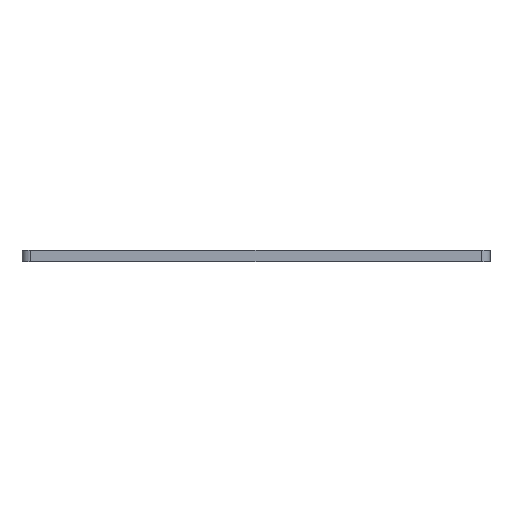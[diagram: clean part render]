
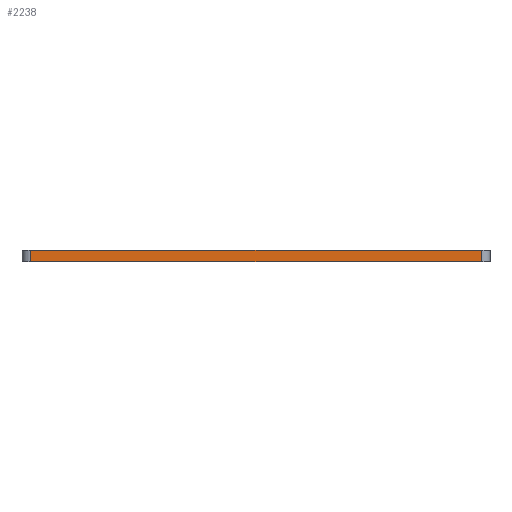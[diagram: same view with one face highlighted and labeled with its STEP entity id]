
A CAD part, front view. The second image highlights one B-rep face of the part: STEP entity #2238.
In plain terms, the highlighted planar face has unit normal (0, -1, 0).
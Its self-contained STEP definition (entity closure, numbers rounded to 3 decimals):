
#44 = CYLINDRICAL_SURFACE('',#45,4.);
#45 = AXIS2_PLACEMENT_3D('',#46,#47,#48);
#46 = CARTESIAN_POINT('',(-101.,-80.,0.));
#47 = DIRECTION('',(0.,0.,-1.));
#48 = DIRECTION('',(-1.,0.,0.));
#72 = PLANE('',#73);
#73 = AXIS2_PLACEMENT_3D('',#74,#75,#76);
#74 = CARTESIAN_POINT('',(0.,0.,5.));
#75 = DIRECTION('',(0.,0.,1.));
#76 = DIRECTION('',(1.,0.,-0.));
#126 = PLANE('',#127);
#127 = AXIS2_PLACEMENT_3D('',#128,#129,#130);
#128 = CARTESIAN_POINT('',(0.,0.,0.));
#129 = DIRECTION('',(0.,0.,1.));
#130 = DIRECTION('',(1.,0.,-0.));
#141 = EDGE_CURVE('',#142,#144,#146,.T.);
#142 = VERTEX_POINT('',#143);
#143 = CARTESIAN_POINT('',(-101.,-84.,0.));
#144 = VERTEX_POINT('',#145);
#145 = CARTESIAN_POINT('',(-101.,-84.,5.));
#146 = SURFACE_CURVE('',#147,(#151,#158),.PCURVE_S1.);
#147 = LINE('',#148,#149);
#148 = CARTESIAN_POINT('',(-101.,-84.,0.));
#149 = VECTOR('',#150,1.);
#150 = DIRECTION('',(0.,0.,1.));
#151 = PCURVE('',#44,#152);
#152 = DEFINITIONAL_REPRESENTATION('',(#153),#157);
#153 = LINE('',#154,#155);
#154 = CARTESIAN_POINT('',(4.712,0.));
#155 = VECTOR('',#156,1.);
#156 = DIRECTION('',(0.,-1.));
#157 = ( GEOMETRIC_REPRESENTATION_CONTEXT(2) 
PARAMETRIC_REPRESENTATION_CONTEXT() REPRESENTATION_CONTEXT('2D SPACE',''
  ) );
#158 = PCURVE('',#159,#164);
#159 = PLANE('',#160);
#160 = AXIS2_PLACEMENT_3D('',#161,#162,#163);
#161 = CARTESIAN_POINT('',(-101.,-84.,0.));
#162 = DIRECTION('',(0.,1.,0.));
#163 = DIRECTION('',(1.,0.,0.));
#164 = DEFINITIONAL_REPRESENTATION('',(#165),#169);
#165 = LINE('',#166,#167);
#166 = CARTESIAN_POINT('',(0.,0.));
#167 = VECTOR('',#168,1.);
#168 = DIRECTION('',(0.,-1.));
#169 = ( GEOMETRIC_REPRESENTATION_CONTEXT(2) 
PARAMETRIC_REPRESENTATION_CONTEXT() REPRESENTATION_CONTEXT('2D SPACE',''
  ) );
#315 = EDGE_CURVE('',#142,#316,#318,.T.);
#316 = VERTEX_POINT('',#317);
#317 = CARTESIAN_POINT('',(101.,-84.,0.));
#318 = SURFACE_CURVE('',#319,(#323,#330),.PCURVE_S1.);
#319 = LINE('',#320,#321);
#320 = CARTESIAN_POINT('',(0.,-84.,0.));
#321 = VECTOR('',#322,1.);
#322 = DIRECTION('',(1.,0.,0.));
#323 = PCURVE('',#126,#324);
#324 = DEFINITIONAL_REPRESENTATION('',(#325),#329);
#325 = LINE('',#326,#327);
#326 = CARTESIAN_POINT('',(0.,-84.));
#327 = VECTOR('',#328,1.);
#328 = DIRECTION('',(1.,0.));
#329 = ( GEOMETRIC_REPRESENTATION_CONTEXT(2) 
PARAMETRIC_REPRESENTATION_CONTEXT() REPRESENTATION_CONTEXT('2D SPACE',''
  ) );
#330 = PCURVE('',#159,#331);
#331 = DEFINITIONAL_REPRESENTATION('',(#332),#336);
#332 = LINE('',#333,#334);
#333 = CARTESIAN_POINT('',(101.,0.));
#334 = VECTOR('',#335,1.);
#335 = DIRECTION('',(1.,0.));
#336 = ( GEOMETRIC_REPRESENTATION_CONTEXT(2) 
PARAMETRIC_REPRESENTATION_CONTEXT() REPRESENTATION_CONTEXT('2D SPACE',''
  ) );
#359 = CYLINDRICAL_SURFACE('',#360,4.);
#360 = AXIS2_PLACEMENT_3D('',#361,#362,#363);
#361 = CARTESIAN_POINT('',(101.,-80.,0.));
#362 = DIRECTION('',(0.,0.,-1.));
#363 = DIRECTION('',(-1.,0.,0.));
#1771 = EDGE_CURVE('',#144,#1772,#1774,.T.);
#1772 = VERTEX_POINT('',#1773);
#1773 = CARTESIAN_POINT('',(101.,-84.,5.));
#1774 = SURFACE_CURVE('',#1775,(#1779,#1786),.PCURVE_S1.);
#1775 = LINE('',#1776,#1777);
#1776 = CARTESIAN_POINT('',(0.,-84.,5.));
#1777 = VECTOR('',#1778,1.);
#1778 = DIRECTION('',(1.,0.,0.));
#1779 = PCURVE('',#72,#1780);
#1780 = DEFINITIONAL_REPRESENTATION('',(#1781),#1785);
#1781 = LINE('',#1782,#1783);
#1782 = CARTESIAN_POINT('',(0.,-84.));
#1783 = VECTOR('',#1784,1.);
#1784 = DIRECTION('',(1.,0.));
#1785 = ( GEOMETRIC_REPRESENTATION_CONTEXT(2) 
PARAMETRIC_REPRESENTATION_CONTEXT() REPRESENTATION_CONTEXT('2D SPACE',''
  ) );
#1786 = PCURVE('',#159,#1787);
#1787 = DEFINITIONAL_REPRESENTATION('',(#1788),#1792);
#1788 = LINE('',#1789,#1790);
#1789 = CARTESIAN_POINT('',(101.,-5.));
#1790 = VECTOR('',#1791,1.);
#1791 = DIRECTION('',(1.,0.));
#1792 = ( GEOMETRIC_REPRESENTATION_CONTEXT(2) 
PARAMETRIC_REPRESENTATION_CONTEXT() REPRESENTATION_CONTEXT('2D SPACE',''
  ) );
#2238 = ADVANCED_FACE('',(#2239),#159,.F.);
#2239 = FACE_BOUND('',#2240,.F.);
#2240 = EDGE_LOOP('',(#2241,#2242,#2243,#2264));
#2241 = ORIENTED_EDGE('',*,*,#141,.T.);
#2242 = ORIENTED_EDGE('',*,*,#1771,.T.);
#2243 = ORIENTED_EDGE('',*,*,#2244,.F.);
#2244 = EDGE_CURVE('',#316,#1772,#2245,.T.);
#2245 = SURFACE_CURVE('',#2246,(#2250,#2257),.PCURVE_S1.);
#2246 = LINE('',#2247,#2248);
#2247 = CARTESIAN_POINT('',(101.,-84.,0.));
#2248 = VECTOR('',#2249,1.);
#2249 = DIRECTION('',(0.,0.,1.));
#2250 = PCURVE('',#159,#2251);
#2251 = DEFINITIONAL_REPRESENTATION('',(#2252),#2256);
#2252 = LINE('',#2253,#2254);
#2253 = CARTESIAN_POINT('',(202.,0.));
#2254 = VECTOR('',#2255,1.);
#2255 = DIRECTION('',(0.,-1.));
#2256 = ( GEOMETRIC_REPRESENTATION_CONTEXT(2) 
PARAMETRIC_REPRESENTATION_CONTEXT() REPRESENTATION_CONTEXT('2D SPACE',''
  ) );
#2257 = PCURVE('',#359,#2258);
#2258 = DEFINITIONAL_REPRESENTATION('',(#2259),#2263);
#2259 = LINE('',#2260,#2261);
#2260 = CARTESIAN_POINT('',(4.712,0.));
#2261 = VECTOR('',#2262,1.);
#2262 = DIRECTION('',(0.,-1.));
#2263 = ( GEOMETRIC_REPRESENTATION_CONTEXT(2) 
PARAMETRIC_REPRESENTATION_CONTEXT() REPRESENTATION_CONTEXT('2D SPACE',''
  ) );
#2264 = ORIENTED_EDGE('',*,*,#315,.F.);
